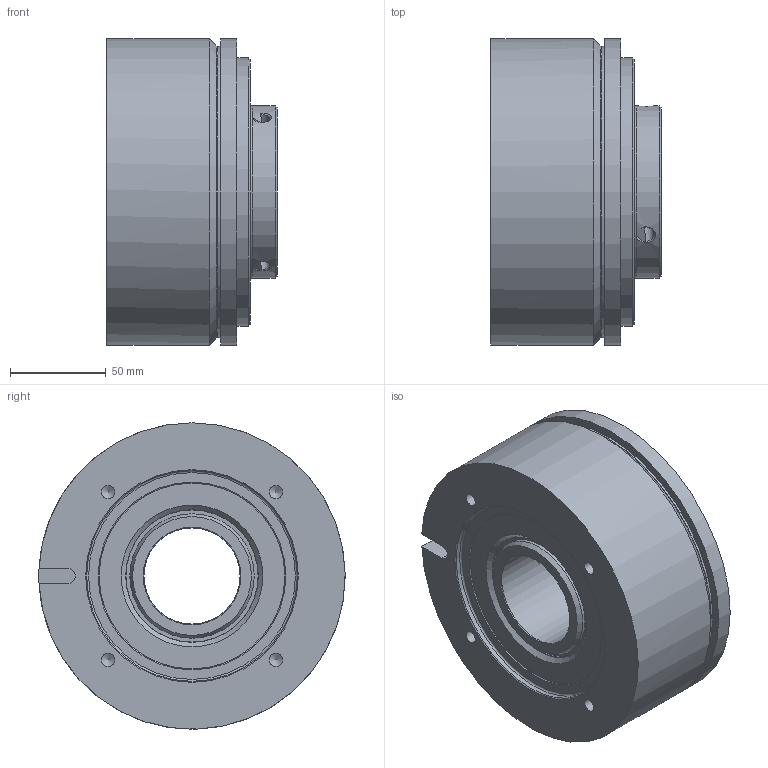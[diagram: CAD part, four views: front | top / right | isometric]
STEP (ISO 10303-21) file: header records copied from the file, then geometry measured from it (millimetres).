
FILE_DESCRIPTION (( 'STEP AP214' ), '1' );
FILE_NAME ('86 61116Pxx_PF-ID 218322_Index a.STEP', '2020-02-07T09:40:42', ( '' ), ( '' ), 'SwSTEP 2.0', 'SolidWorks 2018', '' );
FILE_SCHEMA (( 'AUTOMOTIVE_DESIGN' ));
Length unit declared in the file: millimetre
Products named in the file (1): 86 61116Pxx_PF-ID 218322_Index a
Bounding box: 88.9 x 160 x 160 mm (x, y, z)
Volume: 1297588 mm3; surface area: 147746.5 mm2
Topology: 1 solids, 1 shells, 61 faces, 126 edges, 76 vertices
Faces by surface type: cylinder 22, plane 17, cone 15, torus 7
Full cylindrical faces by diameter (mm): 6.8 x4, 8.5 x3, 50.2 x1, 50.7 x1, 65 x2, 69 x2, 70 x1, 90 x1, 110 x1, 115.5 x1, 140 x1, 152 x1, 160 x2
Entity records: 1826 total; most frequent: CARTESIAN_POINT 610, DIRECTION 250, ORIENTED_EDGE 146, EDGE_LOOP 121, AXIS2_PLACEMENT_3D 121, FACE_OUTER_BOUND 89, EDGE_CURVE 73, VERTEX_POINT 66
